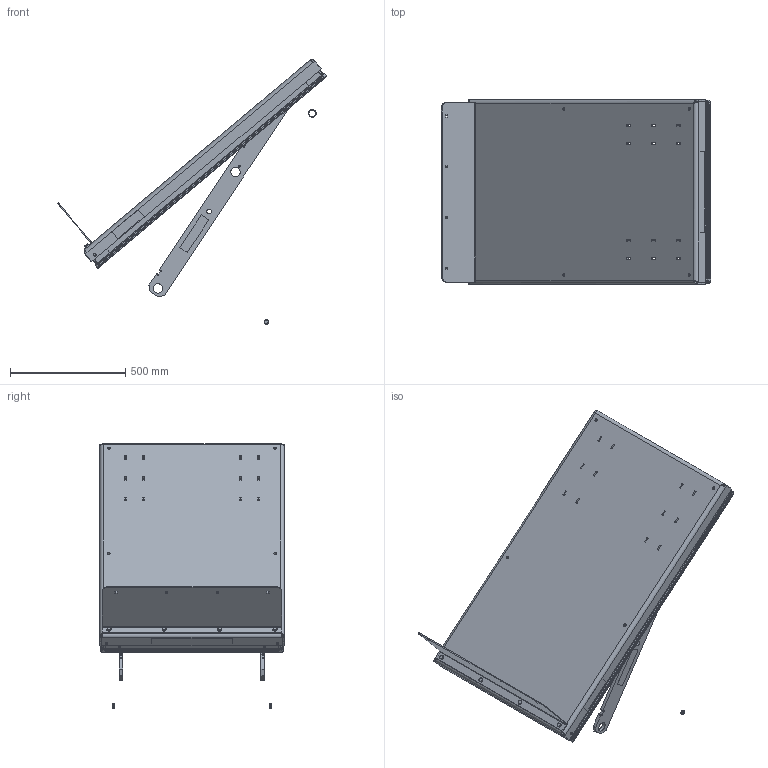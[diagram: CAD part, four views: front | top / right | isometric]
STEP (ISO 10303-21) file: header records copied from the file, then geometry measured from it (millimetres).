
FILE_DESCRIPTION(/* description */ (''),/* implementation_level */ '2;1');
FILE_NAME(/* name */ '\\EDMOFILE01\Users$\LENRO\Desktop\Runden ALT 1500\34031_Tiltad_40_grader.stp',/* time_stamp */ '2015-05-29T09:29:45+02:00',/* author */ ('lenro'),/* organization */ (''),/* preprocessor_version */ 'ST-DEVELOPER v15.6',/* originating_system */ 'Autodesk Inventor 2015',/* authorisation */ '');
FILE_SCHEMA (('AUTOMOTIVE_DESIGN { 1 0 10303 214 3 1 1 }'));
Products named in the file (1): 34031_Tiltad_40_grader
Bounding box: 1167.45 x 800.2 x 1145.71 mm (x, y, z)
Volume: 14214449.1 mm3; surface area: 4597164.5 mm2
Topology: 7 solids, 24 shells, 4182 faces, 11629 edges, 7577 vertices
Faces by surface type: plane 2198, cylinder 1212, bspline 526, cone 128, torus 70, sphere 48
Full cylindrical faces by diameter (mm): 0.474 x2, 1 x4, 3 x4, 3.141 x4, 3.2 x4, 4 x16, 4.3 x4, 4.9 x2, 5 x8, 5.2 x6, 5.3 x2, 7.4 x4, 7.6 x4, 8 x16, 8.5 x4, 10 x14, 10.5 x4, 11 x6, 11.6 x4, 11.63 x4, 12 x8, 14.6 x4, 14.63 x4, 16 x12, 20 x2, 20.3 x2, 29.8 x2, 30.3 x2, 40.3 x4
Entity records: 170878 total; most frequent: CARTESIAN_POINT 48872, ORIENTED_EDGE 25262, DIRECTION 22790, EDGE_CURVE 12617, VERTEX_POINT 8394, LINE 7724, VECTOR 7724, AXIS2_PLACEMENT_3D 7533
